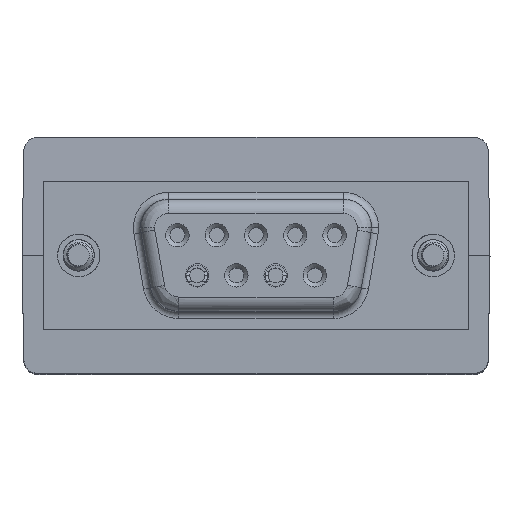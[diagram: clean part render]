
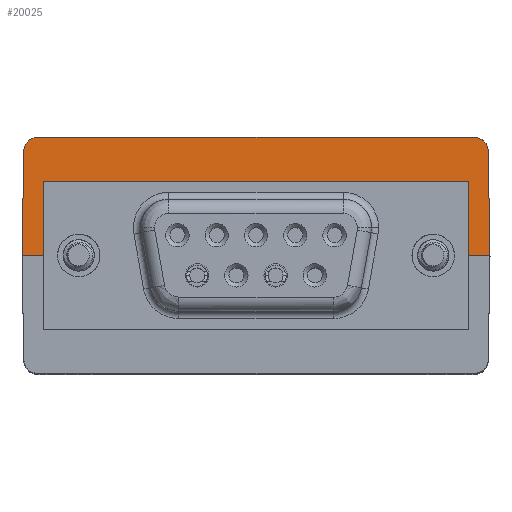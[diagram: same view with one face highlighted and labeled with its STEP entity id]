
A CAD part, top view. The second image highlights one B-rep face of the part: STEP entity #20025.
In plain terms, the highlighted planar face has unit normal (0, 0.018, 1).
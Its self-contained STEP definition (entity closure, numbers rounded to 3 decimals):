
#170=ELLIPSE('',#21596,1.,1.);
#171=ELLIPSE('',#21597,1.,1.);
#561=PLANE('',#21595);
#2615=FACE_OUTER_BOUND('',#3898,.T.);
#3898=EDGE_LOOP('',(#15139,#15140,#15141,#15142,#15143,#15144,#15145,#15146,
#15147,#15148));
#5466=LINE('',#38775,#6959);
#5475=LINE('',#38793,#6968);
#5476=LINE('',#38795,#6969);
#5477=LINE('',#38797,#6970);
#5478=LINE('',#38799,#6971);
#5479=LINE('',#38803,#6972);
#5480=LINE('',#38807,#6973);
#5481=LINE('',#38808,#6974);
#6959=VECTOR('',#24999,10.);
#6968=VECTOR('',#25012,10.);
#6969=VECTOR('',#25013,10.);
#6970=VECTOR('',#25014,10.);
#6971=VECTOR('',#25015,10.);
#6972=VECTOR('',#25018,10.);
#6973=VECTOR('',#25021,10.);
#6974=VECTOR('',#25022,10.);
#8678=VERTEX_POINT('',#38772);
#8679=VERTEX_POINT('',#38774);
#8686=VERTEX_POINT('',#38792);
#8687=VERTEX_POINT('',#38794);
#8688=VERTEX_POINT('',#38796);
#8689=VERTEX_POINT('',#38798);
#8690=VERTEX_POINT('',#38800);
#8691=VERTEX_POINT('',#38802);
#8692=VERTEX_POINT('',#38804);
#8693=VERTEX_POINT('',#38806);
#11024=EDGE_CURVE('',#8679,#8678,#5466,.T.);
#11033=EDGE_CURVE('',#8686,#8679,#5475,.T.);
#11034=EDGE_CURVE('',#8678,#8687,#5476,.T.);
#11035=EDGE_CURVE('',#8687,#8688,#5477,.T.);
#11036=EDGE_CURVE('',#8688,#8689,#5478,.T.);
#11037=EDGE_CURVE('',#8690,#8689,#170,.T.);
#11038=EDGE_CURVE('',#8690,#8691,#5479,.T.);
#11039=EDGE_CURVE('',#8692,#8691,#171,.T.);
#11040=EDGE_CURVE('',#8693,#8692,#5480,.T.);
#11041=EDGE_CURVE('',#8693,#8686,#5481,.T.);
#15139=ORIENTED_EDGE('',*,*,#11033,.T.);
#15140=ORIENTED_EDGE('',*,*,#11024,.T.);
#15141=ORIENTED_EDGE('',*,*,#11034,.T.);
#15142=ORIENTED_EDGE('',*,*,#11035,.T.);
#15143=ORIENTED_EDGE('',*,*,#11036,.T.);
#15144=ORIENTED_EDGE('',*,*,#11037,.F.);
#15145=ORIENTED_EDGE('',*,*,#11038,.T.);
#15146=ORIENTED_EDGE('',*,*,#11039,.F.);
#15147=ORIENTED_EDGE('',*,*,#11040,.F.);
#15148=ORIENTED_EDGE('',*,*,#11041,.T.);
#20025=ADVANCED_FACE('',(#2615),#561,.T.);
#21595=AXIS2_PLACEMENT_3D('',#38791,#25010,#25011);
#21596=AXIS2_PLACEMENT_3D('',#38801,#25016,#25017);
#21597=AXIS2_PLACEMENT_3D('',#38805,#25019,#25020);
#24999=DIRECTION('',(1.,0.,0.));
#25010=DIRECTION('center_axis',(0.,0.017,1.));
#25011=DIRECTION('ref_axis',(1.,0.,0.));
#25012=DIRECTION('',(0.,1.,-0.017));
#25013=DIRECTION('',(0.,-1.,0.017));
#25014=DIRECTION('',(1.,0.,0.));
#25015=DIRECTION('',(-0.017,1.,-0.017));
#25016=DIRECTION('center_axis',(0.,-0.017,-1.));
#25017=DIRECTION('ref_axis',(0.,1.,-0.017));
#25018=DIRECTION('',(-1.,0.,0.));
#25019=DIRECTION('center_axis',(0.,-0.017,-1.));
#25020=DIRECTION('ref_axis',(0.,1.,-0.017));
#25021=DIRECTION('',(0.017,1.,-0.017));
#25022=DIRECTION('',(1.,0.,0.));
#38772=CARTESIAN_POINT('',(15.,5.23,-0.091));
#38774=CARTESIAN_POINT('',(-15.,5.23,-0.091));
#38775=CARTESIAN_POINT('',(0.75,5.23,-0.091));
#38791=CARTESIAN_POINT('Origin',(16.5,0.,0.));
#38792=CARTESIAN_POINT('',(-15.,0.,0.));
#38793=CARTESIAN_POINT('',(-15.,0.,0.));
#38794=CARTESIAN_POINT('',(15.,0.,0.));
#38795=CARTESIAN_POINT('',(15.,2.614,-0.046));
#38796=CARTESIAN_POINT('',(16.5,0.,0.));
#38797=CARTESIAN_POINT('',(-16.5,0.,0.));
#38798=CARTESIAN_POINT('',(16.372,7.347,-0.128));
#38799=CARTESIAN_POINT('',(16.499,0.07,-0.001));
#38800=CARTESIAN_POINT('',(15.372,8.33,-0.145));
#38801=CARTESIAN_POINT('Origin',(15.372,7.33,-0.128));
#38802=CARTESIAN_POINT('',(-15.372,8.33,-0.145));
#38803=CARTESIAN_POINT('',(-16.5,8.33,-0.145));
#38804=CARTESIAN_POINT('',(-16.372,7.347,-0.128));
#38805=CARTESIAN_POINT('Origin',(-15.372,7.33,-0.128));
#38806=CARTESIAN_POINT('',(-16.5,0.,0.));
#38807=CARTESIAN_POINT('',(-16.495,0.288,-0.005));
#38808=CARTESIAN_POINT('',(-16.5,0.,0.));
